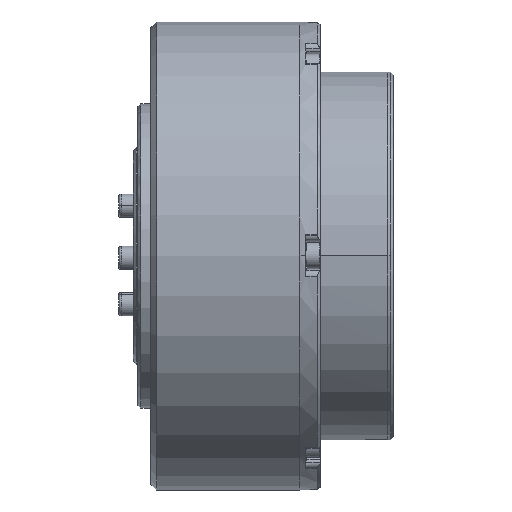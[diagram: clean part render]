
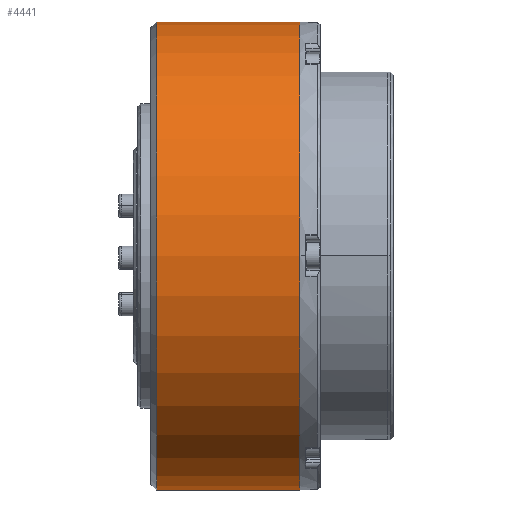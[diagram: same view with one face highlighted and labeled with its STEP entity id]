
A CAD part, top view. The second image highlights one B-rep face of the part: STEP entity #4441.
In plain terms, the highlighted cylindrical face has radius 40 mm (diameter 80 mm), a partial arc.
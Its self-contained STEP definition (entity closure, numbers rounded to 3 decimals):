
#132 = ORIENTED_EDGE ( 'NONE', *, *, #66847, .F. ) ;
#2092 = EDGE_CURVE ( 'NONE', #81342, #109712, #100169, .T. ) ;
#2099 = CARTESIAN_POINT ( 'NONE',  ( -13.7, -40., 0. ) ) ;
#4441 = ADVANCED_FACE ( 'NONE', ( #13538 ), #95784, .T. ) ;
#9490 = CARTESIAN_POINT ( 'NONE',  ( 10.8, 40., 0. ) ) ;
#13538 = FACE_OUTER_BOUND ( 'NONE', #82840, .T. ) ;
#24585 = CARTESIAN_POINT ( 'NONE',  ( 10.8, -40., 0. ) ) ;
#25840 = DIRECTION ( 'NONE',  ( 1., 0., 0. ) ) ;
#28881 = DIRECTION ( 'NONE',  ( 1., 0., 0. ) ) ;
#29171 = DIRECTION ( 'NONE',  ( 0., -1., 0. ) ) ;
#38902 = CIRCLE ( 'NONE', #61895, 40. ) ;
#40998 = DIRECTION ( 'NONE',  ( 1., 0., 0. ) ) ;
#44733 = CIRCLE ( 'NONE', #106094, 40. ) ;
#46940 = VECTOR ( 'NONE', #51584, 1000. ) ;
#50825 = AXIS2_PLACEMENT_3D ( 'NONE', #102370, #84423, #29171 ) ;
#51584 = DIRECTION ( 'NONE',  ( 1., 0., 0. ) ) ;
#53391 = DIRECTION ( 'NONE',  ( 0., -1., 0. ) ) ;
#56067 = VECTOR ( 'NONE', #28881, 1000. ) ;
#56495 = LINE ( 'NONE', #66093, #56067 ) ;
#60271 = VERTEX_POINT ( 'NONE', #106564 ) ;
#61895 = AXIS2_PLACEMENT_3D ( 'NONE', #108051, #25840, #53391 ) ;
#66093 = CARTESIAN_POINT ( 'NONE',  ( 50.266, 40., 0. ) ) ;
#66847 = EDGE_CURVE ( 'NONE', #60271, #108715, #56495, .T. ) ;
#67142 = EDGE_CURVE ( 'NONE', #108715, #109712, #38902, .T. ) ;
#81342 = VERTEX_POINT ( 'NONE', #2099 ) ;
#82840 = EDGE_LOOP ( 'NONE', ( #132, #94666, #85079, #86116 ) ) ;
#84423 = DIRECTION ( 'NONE',  ( 1., 0., 0. ) ) ;
#85079 = ORIENTED_EDGE ( 'NONE', *, *, #2092, .T. ) ;
#86116 = ORIENTED_EDGE ( 'NONE', *, *, #67142, .F. ) ;
#92492 = EDGE_CURVE ( 'NONE', #60271, #81342, #44733, .T. ) ;
#94666 = ORIENTED_EDGE ( 'NONE', *, *, #92492, .T. ) ;
#95784 = CYLINDRICAL_SURFACE ( 'NONE', #50825, 40. ) ;
#97818 = CARTESIAN_POINT ( 'NONE',  ( 50.266, -40., 0. ) ) ;
#100169 = LINE ( 'NONE', #97818, #46940 ) ;
#102370 = CARTESIAN_POINT ( 'NONE',  ( 50.266, 0., 0. ) ) ;
#104011 = CARTESIAN_POINT ( 'NONE',  ( -13.7, 0., 0. ) ) ;
#104643 = DIRECTION ( 'NONE',  ( 0., -1., 0. ) ) ;
#106094 = AXIS2_PLACEMENT_3D ( 'NONE', #104011, #40998, #104643 ) ;
#106564 = CARTESIAN_POINT ( 'NONE',  ( -13.7, 40., 0. ) ) ;
#108051 = CARTESIAN_POINT ( 'NONE',  ( 10.8, 0., 0. ) ) ;
#108715 = VERTEX_POINT ( 'NONE', #9490 ) ;
#109712 = VERTEX_POINT ( 'NONE', #24585 ) ;
